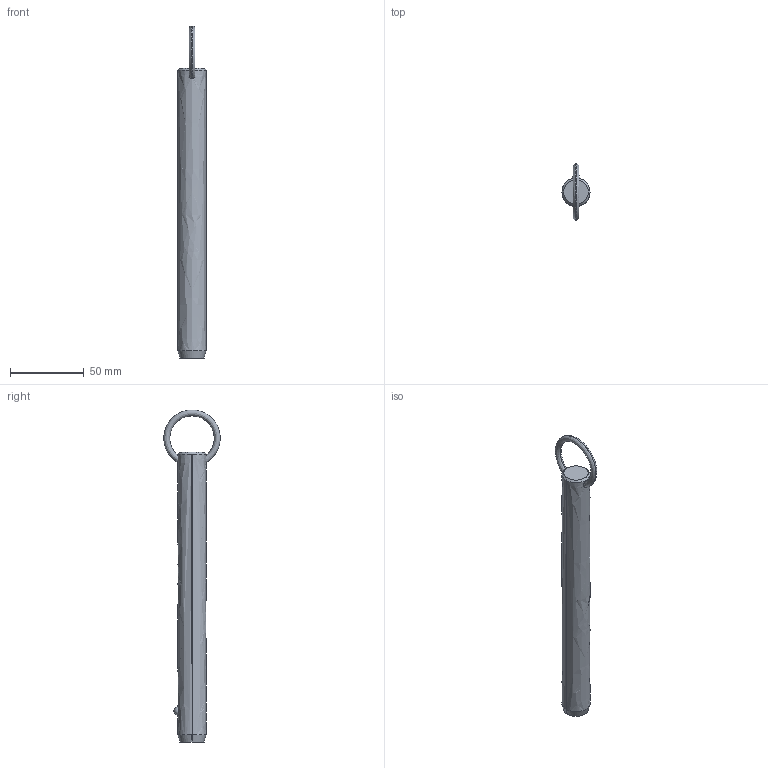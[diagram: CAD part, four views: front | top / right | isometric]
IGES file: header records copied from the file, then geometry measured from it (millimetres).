
Start section: SolidWorks IGES file using analytic representation for surfaces
Global section: file name: C:\Users\liam_\OneDrive\Documents\WORK\Work for WixRoyd\Job Files\J-00019 - Matt Davis CAD Checking\04. CAD Drawings\automotion20190605\P1250.2_v2\P1250.2_v2_20190729_IGES\P1250.075-640.igs; native system: SolidWorks 2017; preprocessor: SolidWorks 2017; author: liam_; date: 190729.235948; units: millimetre
Bounding box: 19 x 38.1 x 224.4 mm (x, y, z)
Surface area: 13220.2 mm2 (no closed solid volume)
Topology: 0 solids, 0 shells, 12 faces, 294 edges, 292 vertices
Faces by surface type: revolution 8, bspline 4
